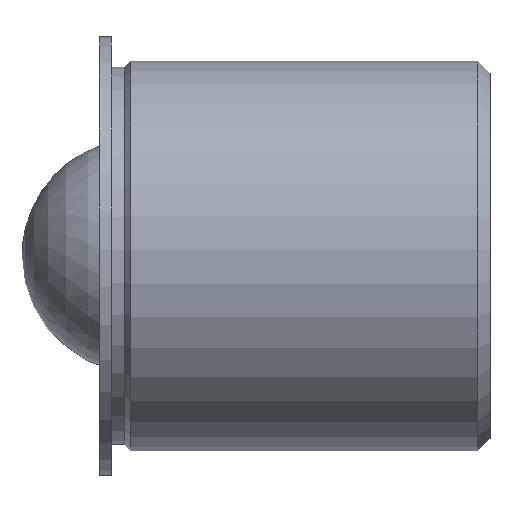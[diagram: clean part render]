
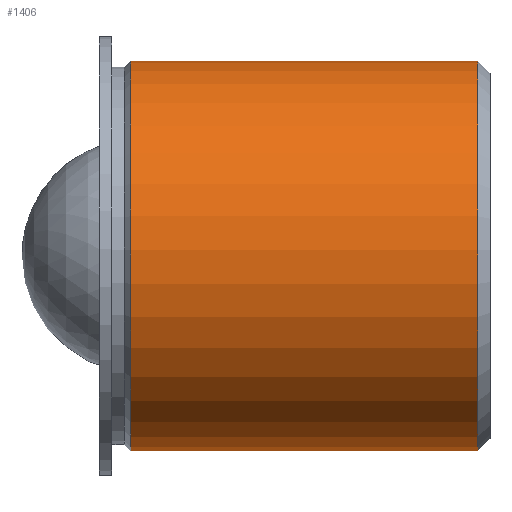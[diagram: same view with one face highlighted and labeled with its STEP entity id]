
A CAD part, front view. The second image highlights one B-rep face of the part: STEP entity #1406.
In plain terms, the highlighted cylindrical face has radius 3.969 mm (diameter 7.938 mm), a partial arc.
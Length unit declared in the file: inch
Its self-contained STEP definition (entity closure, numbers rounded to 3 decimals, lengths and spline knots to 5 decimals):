
#23 = CIRCLE ( 'NONE', #630, 0.15625 ) ;
#40 = EDGE_CURVE ( 'NONE', #843, #679, #144, .T. ) ;
#50 = LINE ( 'NONE', #162, #530 ) ;
#71 = DIRECTION ( 'NONE',  ( 0., 0.031, 1. ) ) ;
#82 = ORIENTED_EDGE ( 'NONE', *, *, #1053, .F. ) ;
#85 = VERTEX_POINT ( 'NONE', #385 ) ;
#123 = ORIENTED_EDGE ( 'NONE', *, *, #474, .T. ) ;
#144 = LINE ( 'NONE', #1453, #754 ) ;
#161 = AXIS2_PLACEMENT_3D ( 'NONE', #1494, #795, #71 ) ;
#162 = CARTESIAN_POINT ( 'NONE',  ( -0.08374, 0.23145, 0.15587 ) ) ;
#335 = CARTESIAN_POINT ( 'NONE',  ( 0.21926, 0.24129, 0.46821 ) ) ;
#341 = EDGE_CURVE ( 'NONE', #85, #953, #50, .T. ) ;
#380 = CARTESIAN_POINT ( 'NONE',  ( -0.05874, 0.23145, 0.15587 ) ) ;
#385 = CARTESIAN_POINT ( 'NONE',  ( 0.21926, 0.23145, 0.15587 ) ) ;
#393 = DIRECTION ( 'NONE',  ( 0., 0.031, 1. ) ) ;
#474 = EDGE_CURVE ( 'NONE', #85, #843, #23, .T. ) ;
#476 = DIRECTION ( 'NONE',  ( -1., 0., 0. ) ) ;
#481 = AXIS2_PLACEMENT_3D ( 'NONE', #782, #1476, #1486 ) ;
#530 = VECTOR ( 'NONE', #988, 39.37008 ) ;
#581 = ORIENTED_EDGE ( 'NONE', *, *, #341, .F. ) ;
#630 = AXIS2_PLACEMENT_3D ( 'NONE', #1172, #476, #393 ) ;
#679 = VERTEX_POINT ( 'NONE', #911 ) ;
#752 = DIRECTION ( 'NONE',  ( -1., 0., 0. ) ) ;
#754 = VECTOR ( 'NONE', #752, 39.37008 ) ;
#759 = CIRCLE ( 'NONE', #161, 0.15625 ) ;
#782 = CARTESIAN_POINT ( 'NONE',  ( -0.08374, 0.23637, 0.31204 ) ) ;
#795 = DIRECTION ( 'NONE',  ( -1., 0., 0. ) ) ;
#843 = VERTEX_POINT ( 'NONE', #335 ) ;
#911 = CARTESIAN_POINT ( 'NONE',  ( -0.05874, 0.24129, 0.46821 ) ) ;
#953 = VERTEX_POINT ( 'NONE', #380 ) ;
#972 = EDGE_LOOP ( 'NONE', ( #581, #123, #1217, #82 ) ) ;
#988 = DIRECTION ( 'NONE',  ( -1., 0., 0. ) ) ;
#991 = FACE_OUTER_BOUND ( 'NONE', #972, .T. ) ;
#1053 = EDGE_CURVE ( 'NONE', #953, #679, #759, .T. ) ;
#1082 = CYLINDRICAL_SURFACE ( 'NONE', #481, 0.15625 ) ;
#1172 = CARTESIAN_POINT ( 'NONE',  ( 0.21926, 0.23637, 0.31204 ) ) ;
#1217 = ORIENTED_EDGE ( 'NONE', *, *, #40, .T. ) ;
#1406 = ADVANCED_FACE ( 'NONE', ( #991 ), #1082, .T. ) ;
#1453 = CARTESIAN_POINT ( 'NONE',  ( -0.08374, 0.24129, 0.46821 ) ) ;
#1476 = DIRECTION ( 'NONE',  ( -1., 0., 0. ) ) ;
#1486 = DIRECTION ( 'NONE',  ( 0., 0.031, 1. ) ) ;
#1494 = CARTESIAN_POINT ( 'NONE',  ( -0.05874, 0.23637, 0.31204 ) ) ;
